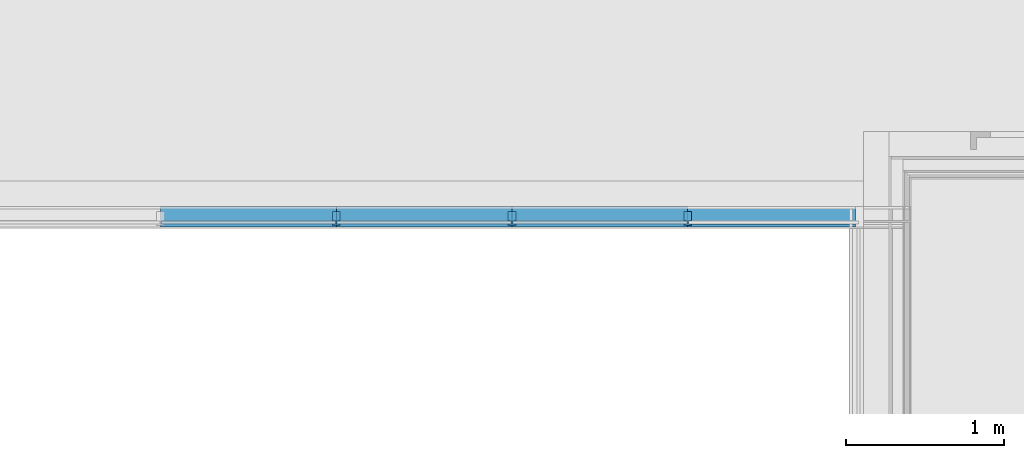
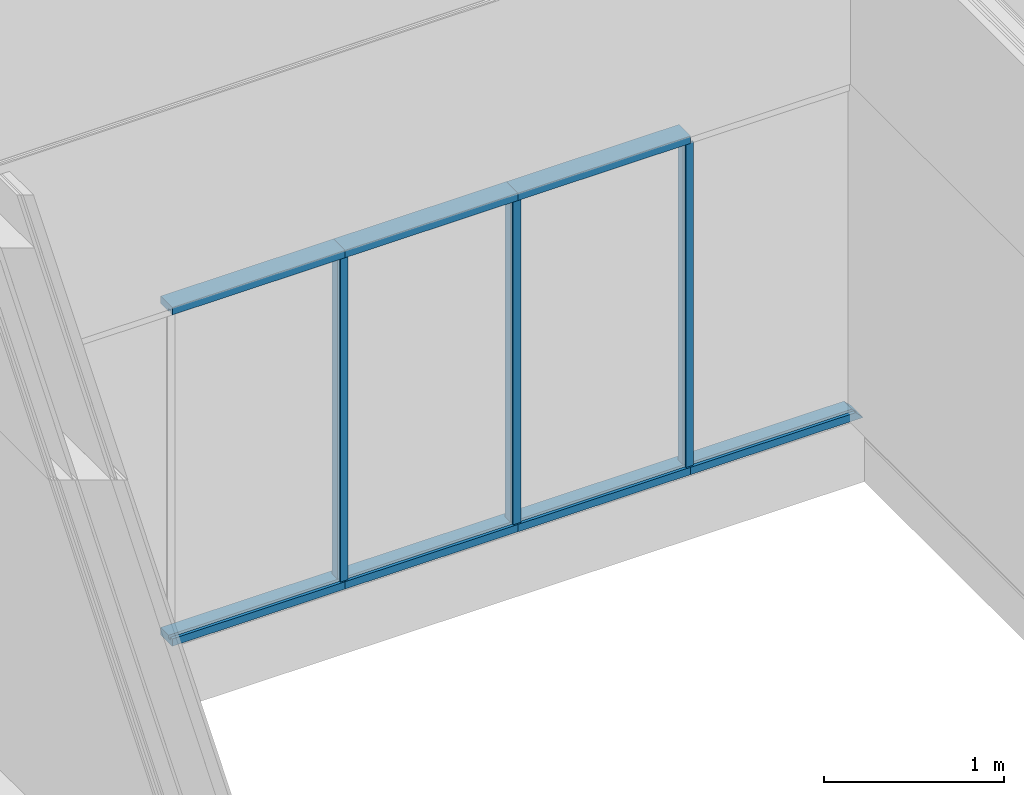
# One storey, part 6 of 139: 10 members, 1 element without a shape of its own.
"""IFC2X3 building model written with IfcOpenShell, lengths in millimetres."""

from ifc_helpers import new_model, entity, si_unit, converted_unit, derived_unit, money_unit, direction, frame, origin_with_axes, place, context, subcontext, project, spatial, faceted_brep, source, transform, mapped, material, type_object, element, aggregate, save


model = new_model("IFC2X3")

# Units and contexts
model_context = context("Model", 3, precision=0.01, world=origin_with_axes(), true_north=direction((0.0, 1.0)))
body_context = subcontext(model_context, "Body", "Model", "MODEL_VIEW")
ifc_project = project(units=[si_unit("LENGTHUNIT", "METRE", prefix="MILLI"), si_unit("AREAUNIT", "SQUARE_METRE"), si_unit("VOLUMEUNIT", "CUBIC_METRE"), converted_unit("PLANEANGLEUNIT", "DEGREE", entity("IfcPlaneAngleMeasure", 0.0174532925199), si_unit("PLANEANGLEUNIT", "RADIAN"), dimensions=[0, 0, 0, 0, 0, 0, 0]), money_unit("EUR"), converted_unit("TIMEUNIT", "Year", entity("IfcTimeMeasure", 31556926.0), si_unit("TIMEUNIT", "SECOND"), dimensions=[0, 0, 1, 0, 0, 0, 0]), si_unit("MASSUNIT", "GRAM", prefix="KILO"), si_unit("THERMODYNAMICTEMPERATUREUNIT", "DEGREE_CELSIUS"), si_unit("LUMINOUSINTENSITYUNIT", "LUMEN"), si_unit("ENERGYUNIT", "JOULE", prefix="MEGA"), derived_unit("THERMALCONDUCTANCEUNIT", [(si_unit("POWERUNIT", "WATT"), 1), (si_unit("LENGTHUNIT", "METRE"), -1), (si_unit("THERMODYNAMICTEMPERATUREUNIT", "KELVIN"), -1)]), derived_unit("SPECIFICHEATCAPACITYUNIT", [(si_unit("ENERGYUNIT", "JOULE"), 1), (si_unit("MASSUNIT", "GRAM", prefix="KILO"), -1), (si_unit("THERMODYNAMICTEMPERATUREUNIT", "KELVIN"), -1)]), derived_unit("MASSDENSITYUNIT", [(si_unit("MASSUNIT", "GRAM", prefix="KILO"), 1), (si_unit("VOLUMEUNIT", "CUBIC_METRE"), -1)])], contexts=[model_context])

# Site, building, storey
site_placement = place(None, origin_with_axes())
site = spatial("IfcSite", under=ifc_project, at=site_placement, Name="Kolde pst 67a", CompositionType="ELEMENT")
building_placement = place(site_placement, origin_with_axes())
building = spatial("IfcBuilding", under=site, at=building_placement, Name="Riigigümnaasium", CompositionType="ELEMENT")
storey_placement = place(building_placement, frame((0.0, 0.0, 4600.0), z_axis=(0.0, 0.0, 1.0), x_axis=(1.0, 0.0, 0.0)))
storey = spatial("IfcBuildingStorey", under=building, at=storey_placement, Name="2. korrus", CompositionType="ELEMENT", Elevation=4600.0)

# Curtain wall, members
curtain_wall_type = type_object("IfcCurtainWallType", Name="Curtain Wall Type", PredefinedType="NOTDEFINED")
curtain_wall_placement = place(storey_placement, frame((15575.0032916, 55314.9743005, 0.0), z_axis=(0.0, 0.0, 1.0), x_axis=(1.0, 0.0, 0.0)))
curtain_wall = element("IfcCurtainWall", 1, at=curtain_wall_placement, inside=storey, type_object=curtain_wall_type, Name="KLAASSEIN")
ifc_material = material(Name="_METALL - alumiinium")
member_type_1 = type_object("IfcMemberType", Name="Boundary Frame 50 x 130", PredefinedType="MEMBER")
shared_shape_1 = source(origin_with_axes(), body_context, "Body", "Brep", [
    faceted_brep([(30.0, -10.0, 1110.0), (30.0, 10.0, 1110.0), (50.0, 10.0, 1110.0), (50.0, 30.0, 1110.0), (0.0, 30.0, 1110.0), (0.0, -100.0, 1110.0), (50.0, -100.0, 1110.0), (50.0, -10.0, 1110.0), (30.0, -10.0, 0.0), (30.0, 10.0, 0.0), (50.0, 10.0, 0.0), (50.0, 30.0, 0.0), (0.0, 30.0, 0.0), (0.0, -100.0, 0.0), (50.0, -100.0, 0.0), (50.0, -10.0, 0.0)], [[[0, 1, 2, 3, 4, 5, 6, 7]], [[1, 0, 8, 9]], [[10, 2, 1, 9]], [[2, 10, 11, 3]], [[12, 4, 3, 11]], [[13, 5, 4, 12]], [[14, 6, 5, 13]], [[15, 7, 6, 14]], [[0, 7, 15, 8]], [[8, 15, 14, 13, 12, 11, 10, 9]]]),
])
member_1_placement = place(curtain_wall_placement, frame((1664.99999988, 0.0203706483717, 2300.00008047), z_axis=(-0.999999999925, -1.22346236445e-05, 0.0), x_axis=(0.0, 0.0, 1.0)))
member_1 = element("IfcMember", 2, at=member_1_placement, type_object=member_type_1, material=ifc_material, Name="RF RAAM SERV-041", ObjectType="MEMBER", context=body_context, shape_type="MappedRepresentation", body=[
    mapped(shared_shape_1, transform((0.0, 0.0, 0.0), x_axis=(-1.0, 0.0, 0.0), y_axis=(0.0, -1.0, 0.0), z_axis=(0.0, 0.0, 1.0))),
])
member_2_placement = place(curtain_wall_placement, frame((554.999999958, 0.00679021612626, 2300.00008047), z_axis=(-0.999999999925, -1.22346236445e-05, 0.0), x_axis=(0.0, 0.0, 1.0)))
member_2 = element("IfcMember", 3, at=member_2_placement, type_object=member_type_1, material=ifc_material, Name="RF RAAM SERV-040", ObjectType="MEMBER", context=body_context, shape_type="MappedRepresentation", body=[
    mapped(shared_shape_1, transform((0.0, 0.0, 0.0), x_axis=(-1.0, 0.0, 0.0), y_axis=(0.0, -1.0, 0.0), z_axis=(0.0, 0.0, 1.0))),
])
member_3_placement = place(curtain_wall_placement, frame((-554.999999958, -0.00679021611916, 2300.00008047), z_axis=(-0.999999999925, -1.22346236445e-05, 0.0), x_axis=(0.0, 0.0, 1.0)))
member_3 = element("IfcMember", 4, at=member_3_placement, type_object=member_type_1, material=ifc_material, Name="RF RAAM SERV-039", ObjectType="MEMBER", context=body_context, shape_type="MappedRepresentation", body=[
    mapped(shared_shape_1, transform((0.0, 0.0, 0.0), x_axis=(-1.0, 0.0, 0.0), y_axis=(0.0, -1.0, 0.0), z_axis=(0.0, 0.0, 1.0))),
])
shared_shape_2 = source(origin_with_axes(), body_context, "Body", "Brep", [
    faceted_brep([(-30.0, -10.0, 1110.0), (-50.0, -10.0, 1110.0), (-50.0, -100.0, 1110.0), (0.0, -100.0, 1110.0), (0.0, 30.0, 1110.0), (-50.0, 30.0, 1110.0), (-50.0, 10.0, 1110.0), (-30.0, 10.0, 1110.0), (-30.0, -10.0, 0.0), (-50.0, -10.0, 0.0), (-50.0, -100.0, 0.0), (0.0, -100.0, 0.0), (0.0, 30.0, 0.0), (-50.0, 30.0, 0.0), (-50.0, 10.0, 0.0), (-30.0, 10.0, 0.0)], [[[0, 1, 2, 3, 4, 5, 6, 7]], [[0, 8, 9, 1]], [[9, 10, 2, 1]], [[10, 11, 3, 2]], [[11, 12, 4, 3]], [[12, 13, 5, 4]], [[6, 5, 13, 14]], [[14, 15, 7, 6]], [[7, 15, 8, 0]], [[8, 15, 14, 13, 12, 11, 10, 9]]]),
])
member_4_placement = place(curtain_wall_placement, frame((554.999999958, 0.00679021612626, 0.0), z_axis=(-0.999999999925, -1.22346236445e-05, 0.0), x_axis=(0.0, 0.0, 1.0)))
member_4 = element("IfcMember", 5, at=member_4_placement, type_object=member_type_1, material=ifc_material, Name="RF RAAM SERV-032", ObjectType="MEMBER", context=body_context, shape_type="MappedRepresentation", body=[
    mapped(shared_shape_2, transform((0.0, 0.0, 0.0), x_axis=(-1.0, 0.0, 0.0), y_axis=(0.0, -1.0, 0.0), z_axis=(0.0, 0.0, 1.0))),
])
member_5_placement = place(curtain_wall_placement, frame((1664.99999988, 0.0203706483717, 0.0), z_axis=(-0.999999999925, -1.22346236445e-05, 0.0), x_axis=(0.0, 0.0, 1.0)))
member_5 = element("IfcMember", 6, at=member_5_placement, type_object=member_type_1, material=ifc_material, Name="RF RAAM SERV-031", ObjectType="MEMBER", context=body_context, shape_type="MappedRepresentation", body=[
    mapped(shared_shape_2, transform((0.0, 0.0, 0.0), x_axis=(-1.0, 0.0, 0.0), y_axis=(0.0, -1.0, 0.0), z_axis=(0.0, 0.0, 1.0))),
])
member_6_placement = place(curtain_wall_placement, frame((-554.999999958, -0.00679021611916, 0.0), z_axis=(-0.999999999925, -1.22346236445e-05, 0.0), x_axis=(0.0, 0.0, 1.0)))
member_6 = element("IfcMember", 7, at=member_6_placement, type_object=member_type_1, material=ifc_material, Name="RF RAAM SERV-033", ObjectType="MEMBER", context=body_context, shape_type="MappedRepresentation", body=[
    mapped(shared_shape_2, transform((0.0, 0.0, 0.0), x_axis=(-1.0, 0.0, 0.0), y_axis=(0.0, -1.0, 0.0), z_axis=(0.0, 0.0, 1.0))),
])
member_type_2 = type_object("IfcMemberType", Name="Mullion Frame 50 x 90", PredefinedType="MEMBER")
shared_shape_3 = source(origin_with_axes(), body_context, "Body", "Brep", [
    faceted_brep([(5.0, -10.0, 2250.00008047), (5.0, 10.0, 2250.00008047), (25.0, 10.0, 2250.00008047), (25.0, 20.0, 2250.00008047), (-25.0, 20.0, 2250.00008047), (-25.0, 10.0, 2250.00008047), (-5.0, 10.0, 2250.00008047), (-5.0, -10.0, 2250.00008047), (-25.0, -10.0, 2250.00008047), (-25.0, -70.0, 2250.00008047), (25.0, -70.0, 2250.00008047), (25.0, -10.0, 2250.00008047), (5.0, -10.0, 50.0), (5.0, 10.0, 50.0), (25.0, 10.0, 50.0), (25.0, 20.0, 50.0), (-25.0, 20.0, 50.0), (-25.0, 10.0, 50.0), (-5.0, 10.0, 50.0), (-5.0, -10.0, 50.0), (-25.0, -10.0, 50.0), (-25.0, -70.0, 50.0), (25.0, -70.0, 50.0), (25.0, -10.0, 50.0)], [[[0, 1, 2, 3, 4, 5, 6, 7, 8, 9, 10, 11]], [[0, 12, 13, 1]], [[1, 13, 14, 2]], [[14, 15, 3, 2]], [[4, 3, 15, 16]], [[17, 5, 4, 16]], [[5, 17, 18, 6]], [[7, 6, 18, 19]], [[8, 7, 19, 20]], [[8, 20, 21, 9]], [[10, 9, 21, 22]], [[11, 10, 22, 23]], [[11, 23, 12, 0]], [[13, 12, 23, 22, 21, 20, 19, 18, 17, 16, 15, 14]]]),
])
member_7_placement = place(curtain_wall_placement, frame((554.999999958, 0.00679021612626, 0.0), z_axis=(0.0, 0.0, 1.0), x_axis=(0.999999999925, 1.22346236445e-05, 0.0)))
member_7 = element("IfcMember", 8, at=member_7_placement, type_object=member_type_2, material=ifc_material, Name="RF RAAM VERT-301", ObjectType="MEMBER", context=body_context, shape_type="MappedRepresentation", body=[
    mapped(shared_shape_3, transform((0.0, 0.0, 0.0), x_axis=(-1.0, 0.0, 0.0), y_axis=(0.0, -1.0, 0.0), z_axis=(0.0, 0.0, 1.0))),
])
member_8_placement = place(curtain_wall_placement, frame((-554.999999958, -0.00679021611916, 0.0), z_axis=(0.0, 0.0, 1.0), x_axis=(0.999999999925, 1.22346236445e-05, 0.0)))
member_8 = element("IfcMember", 9, at=member_8_placement, type_object=member_type_2, material=ifc_material, Name="RF RAAM VERT-302", ObjectType="MEMBER", context=body_context, shape_type="MappedRepresentation", body=[
    mapped(shared_shape_3, transform((0.0, 0.0, 0.0), x_axis=(-1.0, 0.0, 0.0), y_axis=(0.0, -1.0, 0.0), z_axis=(0.0, 0.0, 1.0))),
])
member_9_placement = place(curtain_wall_placement, frame((1664.99999988, 0.0203706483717, 0.0), z_axis=(0.0, 0.0, 1.0), x_axis=(0.999999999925, 1.22346236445e-05, 0.0)))
member_9 = element("IfcMember", 10, at=member_9_placement, type_object=member_type_2, material=ifc_material, Name="RF RAAM VERT-311", ObjectType="MEMBER", context=body_context, shape_type="MappedRepresentation", body=[
    mapped(shared_shape_3, transform((0.0, 0.0, 0.0), x_axis=(-1.0, 0.0, 0.0), y_axis=(0.0, -1.0, 0.0), z_axis=(0.0, 0.0, 1.0))),
])
shared_shape_4 = source(origin_with_axes(), body_context, "Body", "Brep", [
    faceted_brep([(-30.0, -10.0, 1110.0), (-50.0, -10.0, 1110.0), (-50.0, -100.0, 1110.0), (0.0, -100.0, 1110.0), (0.0, 30.0, 1110.0), (-50.0, 30.0, 1110.0), (-50.0, 10.0, 1110.0), (-30.0, 10.0, 1110.0), (-30.0, -10.0, 30.0), (-50.0, -10.0, 50.0), (-50.0, -100.0, 50.0), (0.0, -100.0, 0.0), (0.0, 30.0, 0.0), (-50.0, 30.0, 50.0), (-50.0, 10.0, 50.0), (-30.0, 10.0, 30.0)], [[[0, 1, 2, 3, 4, 5, 6, 7]], [[0, 8, 9, 1]], [[9, 10, 2, 1]], [[2, 10, 11, 3]], [[3, 11, 12, 4]], [[4, 12, 13, 5]], [[6, 5, 13, 14]], [[14, 15, 7, 6]], [[7, 15, 8, 0]], [[8, 15, 14, 13, 12, 11, 10, 9]]]),
])
member_10_placement = place(curtain_wall_placement, frame((2774.99999979, 0.0339510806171, 0.0), z_axis=(-0.999999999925, -1.22346236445e-05, 0.0), x_axis=(0.0, 0.0, 1.0)))
member_10 = element("IfcMember", 11, at=member_10_placement, type_object=member_type_1, material=ifc_material, Name="RF RAAM SERV-030", ObjectType="MEMBER", context=body_context, shape_type="MappedRepresentation", body=[
    mapped(shared_shape_4, transform((0.0, 0.0, 0.0), x_axis=(-1.0, 0.0, 0.0), y_axis=(0.0, -1.0, 0.0), z_axis=(0.0, 0.0, 1.0))),
])
aggregate(curtain_wall, [member_1, member_4, member_2, member_7, member_8, member_9, member_5, member_10, member_3, member_6])

save(model, "model.ifc")
